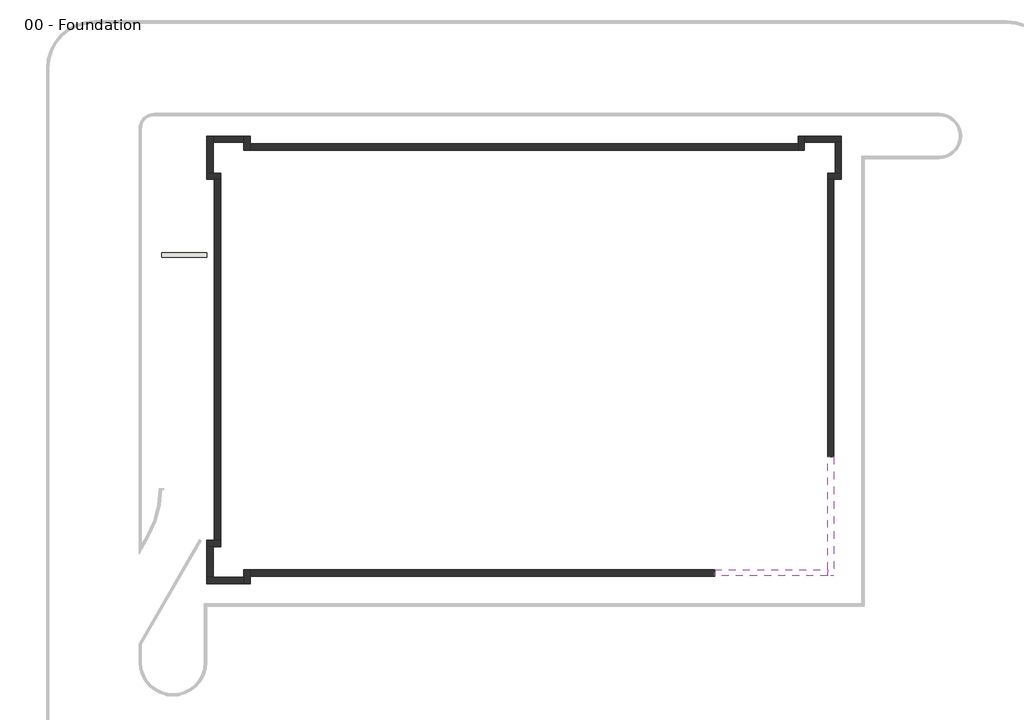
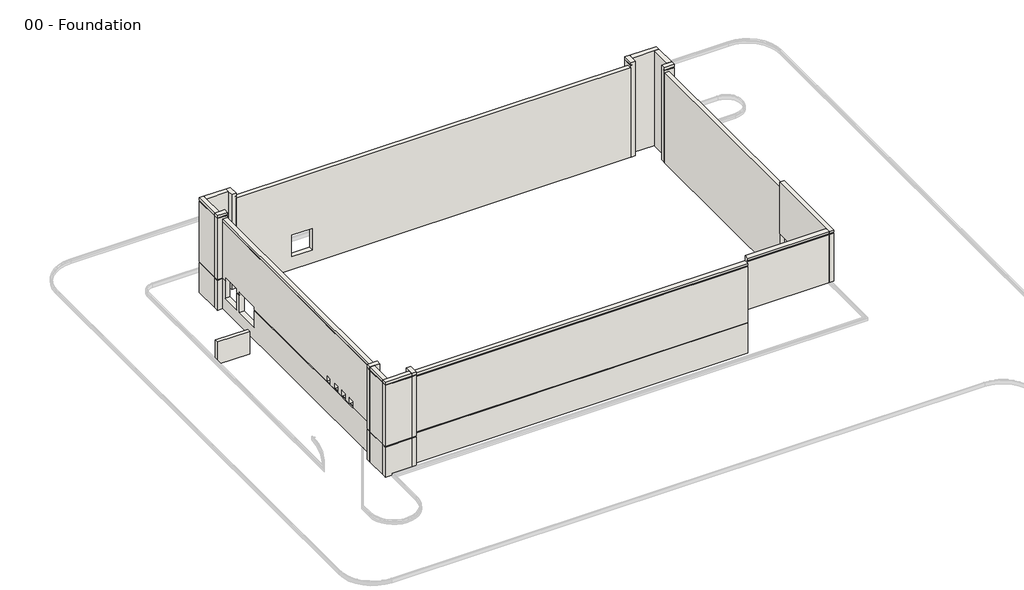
# One storey, part 1 of 2: 19 walls.
"""IFC4 building model written with IfcOpenShell, lengths in millimetres."""

from ifc_helpers import new_model, si_unit, frame, origin, place, context, project, spatial, polyline, outline, extrude, faceted_brep, element, save

model = new_model("IFC4")

# Units and contexts
model_context = context("Model", 3, world=origin())
ifc_project = project(units=[si_unit("LENGTHUNIT", "METRE", prefix="MILLI")], contexts=[model_context])

# Site, building, storey
site = spatial("IfcSite", under=ifc_project)
building = spatial("IfcBuilding", under=site)
storey = spatial("IfcBuildingStorey", under=building, Name="00 - Foundation", Elevation=-1250.0)

# Walls
placement = place(None, origin())
element("IfcWall", 1, ObjectType="Exterior - Render on Brick on Block @ Entry", at=placement, inside=storey, context=model_context, shape_type="Brep", body=[
    faceted_brep([(18351.5272279, -6481.9313057, 3000.0), (18351.5272279, -13977.9313057, 3000.0), (18351.5272279, -14406.9313057, 3000.0), (18351.5272279, -14406.9313057, 7700.0), (18351.5272279, -14331.9313057, 7700.0), (18351.5272279, -14331.9313057, 7775.0), (18351.5272279, -14406.9313057, 7775.0), (18351.5272279, -14406.9313057, 8000.0), (18351.5272279, -13977.9313057, 8000.0), (18351.5272279, -6481.9313057, 8000.0), (18351.5272279, -6481.9313057, 7500.0), (18780.5272279, -14406.9313057, 3000.0), (18780.5272279, -6481.9313057, 3000.0), (18780.5272279, -6481.9313057, 7200.0), (18780.5272279, -6481.9313057, 7275.0), (18780.5272279, -6481.9313057, 7500.0), (18780.5272279, -6481.9313057, 7700.0), (18780.5272279, -14406.9313057, 7700.0), (18780.5272279, -6481.9313057, 8000.0), (18780.5272279, -14406.9313057, 8000.0), (18780.5272279, -14406.9313057, 7775.0), (18780.5272279, -6481.9313057, 7775.0), (18705.5272279, -6481.9313057, 7775.0), (18705.5272279, -6481.9313057, 7700.0), (18705.5272279, -14331.9313057, 7775.0), (18705.5272279, -14331.9313057, 7700.0)], [[[0, 1, 2, 3, 4, 5, 6, 7, 8, 9, 10]], [[11, 12, 13, 14, 15, 16, 17]], [[18, 19, 20, 21]], [[2, 1, 0, 12, 11]], [[9, 8, 7, 19, 18]], [[0, 10, 9, 18, 21, 22, 23, 16, 15, 14, 13, 12]], [[24, 22, 21, 20, 6, 5]], [[23, 25, 4, 3, 17, 16]], [[22, 24, 25, 23]], [[2, 11, 17, 3]], [[19, 7, 6, 20]], [[25, 24, 5, 4]]]),
])
element("IfcWall", 2, ObjectType="Exterior - Render on Brick on Block @ Entry", at=placement, inside=storey, context=model_context, shape_type="Brep", body=[
    faceted_brep([(18351.5272279, -13977.9313057, 3000.0), (10855.5272279, -13977.9313057, 3000.0), (10855.5272279, -13977.9313057, 7500.0), (10855.5272279, -13977.9313057, 8000.0), (18351.5272279, -13977.9313057, 8000.0), (10855.5272279, -14406.9313057, 3000.0), (18351.5272279, -14406.9313057, 3000.0), (18351.5272279, -14406.9313057, 7700.0), (10855.5272279, -14406.9313057, 7700.0), (10855.5272279, -14406.9313057, 7500.0), (10855.5272279, -14406.9313057, 7275.0), (10855.5272279, -14406.9313057, 7200.0), (18351.5272279, -14406.9313057, 8000.0), (10855.5272279, -14406.9313057, 8000.0), (10855.5272279, -14406.9313057, 7775.0), (18351.5272279, -14406.9313057, 7775.0), (10855.5272279, -14331.9313057, 7700.0), (10855.5272279, -14331.9313057, 7775.0), (18351.5272279, -14331.9313057, 7700.0), (18351.5272279, -14331.9313057, 7775.0)], [[[0, 1, 2, 3, 4]], [[5, 6, 7, 8, 9, 10, 11]], [[12, 13, 14, 15]], [[1, 0, 6, 5]], [[3, 2, 1, 5, 11, 10, 9, 8, 16, 17, 14, 13]], [[4, 3, 13, 12]], [[16, 18, 19, 17]], [[0, 4, 12, 15, 19, 18, 7, 6]], [[17, 19, 15, 14]], [[18, 16, 8, 7]]]),
])
element("IfcWall", 3, ObjectType="Exterior - Render on Brick on Block", at=placement, inside=storey, context=model_context, shape_type="Brep", body=[
    faceted_brep([(10855.5272279, -13977.9313057, -1250.0), (-20031.4727721, -13977.9313057, -1250.0), (-20031.4727721, -13977.9313057, 7500.0), (10855.5272279, -13977.9313057, 7500.0), (10855.5272279, -13977.9313057, 3000.0), (10855.5272279, -14406.9313057, 7500.0), (-20031.4727721, -14406.9313057, 7500.0), (-20031.4727721, -14406.9313057, 7275.0), (10855.5272279, -14406.9313057, 7275.0), (-20031.4727721, -14406.9313057, -1250.0), (10855.5272279, -14406.9313057, -1250.0), (10855.5272279, -14406.9313057, 1675.0), (-20031.4727721, -14406.9313057, 1675.0), (-20031.4727721, -14406.9313057, 1750.0), (10855.5272279, -14406.9313057, 1750.0), (10855.5272279, -14406.9313057, 7200.0), (-20031.4727721, -14406.9313057, 7200.0), (10855.5272279, -14331.9313057, 7275.0), (10855.5272279, -14331.9313057, 7200.0), (10855.5272279, -14331.9313057, 1750.0), (10855.5272279, -14331.9313057, 1675.0), (10855.5272279, -14381.9313057, -1250.0), (-20031.4727721, -14381.9313057, -1250.0), (-20031.4727721, -14331.9313057, 1750.0), (-20031.4727721, -14331.9313057, 1675.0), (-20031.4727721, -14331.9313057, 7275.0), (-20031.4727721, -14331.9313057, 7200.0)], [[[0, 1, 2, 3, 4]], [[5, 6, 7, 8]], [[9, 10, 11, 12]], [[13, 14, 15, 16]], [[3, 2, 6, 5]], [[0, 4, 3, 5, 8, 17, 18, 15, 14, 19, 20, 11, 10, 21]], [[1, 0, 21, 22]], [[21, 10, 9, 22]], [[14, 13, 23, 19]], [[12, 11, 20, 24]], [[20, 19, 23, 24]], [[25, 17, 8, 7]], [[18, 26, 16, 15]], [[17, 25, 26, 18]], [[2, 1, 22, 9, 12, 24, 23, 13, 16, 26, 25, 7, 6]]]),
])
element("IfcWall", 4, ObjectType="Exterior - Render on Brick on Block", at=placement, inside=storey, context=model_context, shape_type="Brep", body=[
    faceted_brep([(-20460.4727721, -13977.9313057, -1250.0), (-20460.4727721, -14477.7313057, -1250.0), (-20460.4727721, -14906.7313057, -1250.0), (-20460.4727721, -14906.7313057, 1675.0), (-20460.4727721, -14831.7313057, 1675.0), (-20460.4727721, -14831.7313057, 1750.0), (-20460.4727721, -14906.7313057, 1750.0), (-20460.4727721, -14906.7313057, 7700.0), (-20460.4727721, -14831.7313057, 7700.0), (-20460.4727721, -14831.7313057, 7775.0), (-20460.4727721, -14906.7313057, 7775.0), (-20460.4727721, -14906.7313057, 8000.0), (-20460.4727721, -14477.7313057, 8000.0), (-20460.4727721, -13977.9313057, 8000.0), (-20031.4727721, -13977.9313057, 8000.0), (-20031.4727721, -14906.7313057, 8000.0), (-20031.4727721, -14906.7313057, 7775.0), (-20031.4727721, -13977.9313057, 7775.0), (-20031.4727721, -14906.7313057, -1250.0), (-20031.4727721, -14406.9313057, -1250.0), (-20031.4727721, -13977.9313057, -1250.0), (-20031.4727721, -13977.9313057, 7500.0), (-20031.4727721, -13977.9313057, 7700.0), (-20031.4727721, -14906.7313057, 7700.0), (-20031.4727721, -14906.7313057, 1750.0), (-20031.4727721, -14406.9313057, 1750.0), (-20031.4727721, -14331.9313057, 1750.0), (-20031.4727721, -14331.9313057, 1675.0), (-20031.4727721, -14406.9313057, 1675.0), (-20031.4727721, -14906.7313057, 1675.0), (-20056.4727721, -13977.9313057, -1250.0), (-20056.4727721, -14906.7313057, -1250.0), (-20106.4727721, -14331.9313057, 1675.0), (-20106.4727721, -14331.9313057, 1750.0), (-20106.4727721, -14831.7313057, 1750.0), (-20106.4727721, -14831.7313057, 1675.0), (-20106.4727721, -14831.7313057, 7775.0), (-20106.4727721, -13977.9313057, 7775.0), (-20106.4727721, -13977.9313057, 7700.0), (-20106.4727721, -14831.7313057, 7700.0)], [[[0, 1, 2, 3, 4, 5, 6, 7, 8, 9, 10, 11, 12, 13]], [[14, 15, 16, 17]], [[18, 19, 20, 21, 22, 23, 24, 25, 26, 27, 28, 29]], [[13, 12, 11, 15, 14]], [[2, 1, 0, 30, 31]], [[32, 33, 34, 35]], [[36, 37, 17, 16, 10, 9]], [[38, 39, 8, 7, 23, 22]], [[37, 36, 39, 38]], [[0, 13, 14, 17, 37, 38, 22, 21, 20, 30]], [[20, 19, 18, 31, 30]], [[34, 33, 26, 25, 24, 6, 5]], [[32, 35, 4, 3, 29, 28, 27]], [[33, 32, 27, 26]], [[15, 11, 10, 16]], [[2, 31, 18, 29, 3]], [[6, 24, 23, 7]], [[35, 34, 5, 4]], [[39, 36, 9, 8]]]),
])
element("IfcWall", 5, ObjectType="Exterior - Render on Brick on Block", at=placement, inside=storey, context=model_context, shape_type="Brep", body=[
    faceted_brep([(-20460.4727721, -14477.7313057, -1250.0), (-22490.4727721, -14477.7313057, -1250.0), (-22919.4727721, -14477.7313057, -1250.0), (-22919.4727721, -14477.7313057, 1675.0), (-22844.4727721, -14477.7313057, 1675.0), (-22844.4727721, -14477.7313057, 1750.0), (-22919.4727721, -14477.7313057, 1750.0), (-22919.4727721, -14477.7313057, 7700.0), (-22844.4727721, -14477.7313057, 7700.0), (-22844.4727721, -14477.7313057, 7775.0), (-22919.4727721, -14477.7313057, 7775.0), (-22919.4727721, -14477.7313057, 8000.0), (-22490.4727721, -14477.7313057, 8000.0), (-20460.4727721, -14477.7313057, 8000.0), (-20460.4727721, -14906.7313057, 8000.0), (-22919.4727721, -14906.7313057, 8000.0), (-22919.4727721, -14906.7313057, 7775.0), (-20460.4727721, -14906.7313057, 7775.0), (-22919.4727721, -14906.7313057, -1250.0), (-20460.4727721, -14906.7313057, -1250.0), (-20460.4727721, -14906.7313057, 1675.0), (-22919.4727721, -14906.7313057, 1675.0), (-22919.4727721, -14906.7313057, 1750.0), (-20460.4727721, -14906.7313057, 1750.0), (-20460.4727721, -14906.7313057, 7700.0), (-22919.4727721, -14906.7313057, 7700.0), (-20460.4727721, -14881.7313057, -1250.0), (-22919.4727721, -14881.7313057, -1250.0), (-22844.4727721, -14831.7313057, 1675.0), (-20460.4727721, -14831.7313057, 1675.0), (-20460.4727721, -14831.7313057, 1750.0), (-22844.4727721, -14831.7313057, 1750.0), (-22844.4727721, -14831.7313057, 7775.0), (-22844.4727721, -14831.7313057, 7700.0), (-20460.4727721, -14831.7313057, 7700.0), (-20460.4727721, -14831.7313057, 7775.0)], [[[0, 1, 2, 3, 4, 5, 6, 7, 8, 9, 10, 11, 12, 13]], [[14, 15, 16, 17]], [[18, 19, 20, 21]], [[22, 23, 24, 25]], [[13, 12, 11, 15, 14]], [[2, 1, 0, 26, 27]], [[28, 29, 30, 31]], [[32, 33, 34, 35]], [[0, 13, 14, 17, 35, 34, 24, 23, 30, 29, 20, 19, 26]], [[19, 18, 27, 26]], [[31, 30, 23, 22, 6, 5]], [[29, 28, 4, 3, 21, 20]], [[9, 32, 35, 17, 16, 10]], [[34, 33, 8, 7, 25, 24]], [[15, 11, 10, 16]], [[2, 27, 18, 21, 3]], [[6, 22, 25, 7]], [[28, 31, 5, 4]], [[33, 32, 9, 8]]]),
])
element("IfcWall", 6, ObjectType="Exterior - Render on Brick on Block", at=placement, inside=storey, context=model_context, shape_type="SweptSolid", body=[
    extrude(outline(polyline([(-1250.0, -22490.4727721), (8000.0, -22490.4727721), (8000.0, -22919.4727721), (7775.0, -22919.4727721), (7775.0, -22844.4727721), (7700.0, -22844.4727721), (7700.0, -22919.4727721), (1750.0, -22919.4727721), (1750.0, -22844.4727721), (1675.0, -22844.4727721), (1675.0, -22919.4727721), (-1250.0, -22919.4727721), (-1250.0, -22894.4727721), (-1250.0, -22490.4727721)])), frame((0.0, -14477.7313057, 0.0), z_axis=(0.0, 1.0, 0.0), x_axis=(0.0, 0.0, 1.0)), (0.0, 0.0, 1.0), 2030.0),
])
element("IfcWall", 7, ObjectType="Exterior - Render on Brick on Block", at=placement, inside=storey, context=model_context, shape_type="Brep", body=[
    faceted_brep([(-22919.4727721, -12447.7313057, -1250.0), (-22490.4727721, -12447.7313057, -1250.0), (-21990.4727721, -12447.7313057, -1250.0), (-21990.4727721, -12447.7313057, 8000.0), (-22490.4727721, -12447.7313057, 8000.0), (-22919.4727721, -12447.7313057, 8000.0), (-22919.4727721, -12447.7313057, 7775.0), (-22844.4727721, -12447.7313057, 7775.0), (-22844.4727721, -12447.7313057, 7700.0), (-22919.4727721, -12447.7313057, 7700.0), (-22919.4727721, -12447.7313057, 1750.0), (-22844.4727721, -12447.7313057, 1750.0), (-22844.4727721, -12447.7313057, 1675.0), (-22919.4727721, -12447.7313057, 1675.0), (-22919.4727721, -12018.7313057, 8000.0), (-21990.4727721, -12018.7313057, 8000.0), (-21990.4727721, -12018.7313057, 7775.0), (-22919.4727721, -12018.7313057, 7775.0), (-21990.4727721, -12018.7313057, -1250.0), (-22419.4727721, -12018.7313057, -1250.0), (-22919.4727721, -12018.7313057, -1250.0), (-22919.4727721, -12018.7313057, 1675.0), (-22419.4727721, -12018.7313057, 1675.0), (-22344.4727721, -12018.7313057, 1675.0), (-22344.4727721, -12018.7313057, 1750.0), (-22419.4727721, -12018.7313057, 1750.0), (-22919.4727721, -12018.7313057, 1750.0), (-22919.4727721, -12018.7313057, 7700.0), (-21990.4727721, -12018.7313057, 7700.0), (-21990.4727721, -12018.7313057, 7500.0), (-22919.4727721, -12043.7313057, -1250.0), (-21990.4727721, -12043.7313057, -1250.0), (-22844.4727721, -12093.7313057, 1675.0), (-22844.4727721, -12093.7313057, 1750.0), (-22344.4727721, -12093.7313057, 1750.0), (-22344.4727721, -12093.7313057, 1675.0), (-22844.4727721, -12093.7313057, 7775.0), (-21990.4727721, -12093.7313057, 7775.0), (-21990.4727721, -12093.7313057, 7700.0), (-22844.4727721, -12093.7313057, 7700.0)], [[[0, 1, 2, 3, 4, 5, 6, 7, 8, 9, 10, 11, 12, 13]], [[14, 15, 16, 17]], [[18, 19, 20, 21, 22, 23, 24, 25, 26, 27, 28, 29]], [[5, 4, 3, 15, 14]], [[2, 1, 0, 30, 31]], [[32, 33, 34, 35]], [[36, 37, 38, 39]], [[5, 14, 17, 6]], [[30, 0, 13, 21, 20]], [[26, 10, 9, 27]], [[20, 19, 18, 31, 30]], [[34, 33, 11, 10, 26, 25, 24]], [[32, 35, 23, 22, 21, 13, 12]], [[33, 32, 12, 11]], [[37, 36, 7, 6, 17, 16]], [[39, 38, 28, 27, 9, 8]], [[36, 39, 8, 7]], [[3, 2, 31, 18, 29, 28, 38, 37, 16, 15]], [[35, 34, 24, 23]]]),
])
element("IfcWall", 8, ObjectType="Exterior - Render on Brick on Block", at=placement, inside=storey, context=model_context, shape_type="Brep", body=[
    faceted_brep([(-21990.4727721, -12018.7313057, -1250.0), (-21990.4727721, 11955.0686943, -1250.0), (-21990.4727721, 11955.0686943, 7500.0), (-21990.4727721, -12018.7313057, 7500.0), (-21990.4727721, 9255.0686943, 2000.0), (-21990.4727721, 9255.0686943, 0.0), (-21990.4727721, 6855.0686943, 0.0), (-21990.4727721, 6855.0686943, 2000.0), (-21990.4727721, 9655.0686943, 2100.0), (-21990.4727721, 11555.0686943, 2100.0), (-21990.4727721, 11555.0686943, 0.0), (-21990.4727721, 9655.0686943, 0.0), (-21990.4727721, -5291.1813057, 1750.0), (-21990.4727721, -5291.1813057, 2360.0), (-21990.4727721, -4681.1813057, 2360.0), (-21990.4727721, -4681.1813057, 1750.0), (-21990.4727721, -6501.1813057, 1750.0), (-21990.4727721, -6501.1813057, 2360.0), (-21990.4727721, -5891.1813057, 2360.0), (-21990.4727721, -5891.1813057, 1750.0), (-21990.4727721, -7711.1813057, 1750.0), (-21990.4727721, -7711.1813057, 2360.0), (-21990.4727721, -7101.1813057, 2360.0), (-21990.4727721, -7101.1813057, 1750.0), (-21990.4727721, -8921.1813057, 1750.0), (-21990.4727721, -8921.1813057, 2360.0), (-21990.4727721, -8311.1813057, 2360.0), (-21990.4727721, -8311.1813057, 1750.0), (-22419.4727721, -12018.7313057, 7500.0), (-22419.4727721, 11955.0686943, 7500.0), (-22419.4727721, 11955.0686943, 7275.0), (-22419.4727721, -12018.7313057, 7275.0), (-22419.4727721, 11955.0686943, -1250.0), (-22419.4727721, -12018.7313057, -1250.0), (-22419.4727721, -12018.7313057, 1675.0), (-22419.4727721, 6855.0686943, 1675.0), (-22419.4727721, 6855.0686943, 0.0), (-22419.4727721, 9255.0686943, 0.0), (-22419.4727721, 9255.0686943, 1675.0), (-22419.4727721, 9655.0686943, 1675.0), (-22419.4727721, 9655.0686943, 0.0), (-22419.4727721, 11555.0686943, 0.0), (-22419.4727721, 11555.0686943, 1675.0), (-22419.4727721, 11955.0686943, 1675.0), (-22419.4727721, 11955.0686943, 1750.0), (-22419.4727721, 11555.0686943, 1750.0), (-22419.4727721, 11555.0686943, 2100.0), (-22419.4727721, 9655.0686943, 2100.0), (-22419.4727721, 9655.0686943, 1750.0), (-22419.4727721, 9255.0686943, 1750.0), (-22419.4727721, 9255.0686943, 2000.0), (-22419.4727721, 6855.0686943, 2000.0), (-22419.4727721, 6855.0686943, 1750.0), (-22419.4727721, -4681.1813057, 1750.0), (-22419.4727721, -4681.1813057, 2360.0), (-22419.4727721, -5291.1813057, 2360.0), (-22419.4727721, -5291.1813057, 1750.0), (-22419.4727721, -5891.1813057, 1750.0), (-22419.4727721, -5891.1813057, 2360.0), (-22419.4727721, -6501.1813057, 2360.0), (-22419.4727721, -6501.1813057, 1750.0), (-22419.4727721, -7101.1813057, 1750.0), (-22419.4727721, -7101.1813057, 2360.0), (-22419.4727721, -7711.1813057, 2360.0), (-22419.4727721, -7711.1813057, 1750.0), (-22419.4727721, -8311.1813057, 1750.0), (-22419.4727721, -8311.1813057, 2360.0), (-22419.4727721, -8921.1813057, 2360.0), (-22419.4727721, -8921.1813057, 1750.0), (-22419.4727721, -12018.7313057, 1750.0), (-22419.4727721, -12018.7313057, 7200.0), (-22419.4727721, 11955.0686943, 7200.0), (-22394.4727721, -12018.7313057, -1250.0), (-22394.4727721, 11955.0686943, -1250.0), (-22344.4727721, 11955.0686943, 1750.0), (-22344.4727721, 11555.0686943, 1750.0), (-22344.4727721, 11555.0686943, 1675.0), (-22344.4727721, 11955.0686943, 1675.0), (-22344.4727721, 11955.0686943, 7275.0), (-22344.4727721, -12018.7313057, 7275.0), (-22344.4727721, -12018.7313057, 7200.0), (-22344.4727721, 11955.0686943, 7200.0), (-22344.4727721, -12018.7313057, 1750.0), (-22344.4727721, -12018.7313057, 1675.0), (-22344.4727721, -8921.1813057, 1750.0), (-22344.4727721, 6855.0686943, 1750.0), (-22344.4727721, -4681.1813057, 1750.0), (-22344.4727721, -5291.1813057, 1750.0), (-22344.4727721, -5891.1813057, 1750.0), (-22344.4727721, -6501.1813057, 1750.0), (-22344.4727721, -7101.1813057, 1750.0), (-22344.4727721, -7711.1813057, 1750.0), (-22344.4727721, -8311.1813057, 1750.0), (-22344.4727721, 6855.0686943, 1675.0), (-22344.4727721, 9255.0686943, 1750.0), (-22344.4727721, 9255.0686943, 1675.0), (-22344.4727721, 9655.0686943, 1750.0), (-22344.4727721, 9655.0686943, 1675.0)], [[[0, 1, 2, 3], [4, 5, 6, 7], [8, 9, 10, 11], [12, 13, 14, 15], [16, 17, 18, 19], [20, 21, 22, 23], [24, 25, 26, 27]], [[28, 29, 30, 31]], [[32, 33, 34, 35, 36, 37, 38, 39, 40, 41, 42, 43]], [[44, 45, 46, 47, 48, 49, 50, 51, 52, 53, 54, 55, 56, 57, 58, 59, 60, 61, 62, 63, 64, 65, 66, 67, 68, 69, 70, 71]], [[3, 2, 29, 28]], [[1, 0, 72, 73]], [[45, 44, 74, 75]], [[43, 42, 76, 77]], [[77, 76, 75, 74]], [[78, 79, 31, 30]], [[80, 81, 71, 70]], [[79, 78, 81, 80]], [[0, 3, 28, 31, 79, 80, 70, 69, 82, 83, 34, 33, 72]], [[33, 32, 73, 72]], [[69, 68, 84, 82]], [[52, 85, 86, 53]], [[57, 56, 87, 88]], [[61, 60, 89, 90]], [[65, 64, 91, 92]], [[35, 34, 83, 93]], [[2, 1, 73, 32, 43, 77, 74, 44, 71, 81, 78, 30, 29]], [[5, 4, 50, 49, 94, 95, 38, 37]], [[51, 50, 4, 7]], [[7, 6, 36, 35, 93, 85, 52, 51]], [[37, 36, 6, 5]], [[94, 96, 97, 95]], [[96, 94, 49, 48]], [[95, 97, 39, 38]], [[8, 47, 46, 9]], [[47, 8, 11, 40, 39, 97, 96, 48]], [[40, 11, 10, 41]], [[9, 46, 45, 75, 76, 42, 41, 10]], [[93, 83, 82, 84, 92, 91, 90, 89, 88, 87, 86, 85]], [[13, 12, 87, 56, 55]], [[14, 13, 55, 54]], [[15, 14, 54, 53, 86]], [[12, 15, 86, 87]], [[17, 16, 89, 60, 59]], [[18, 17, 59, 58]], [[19, 18, 58, 57, 88]], [[16, 19, 88, 89]], [[21, 20, 91, 64, 63]], [[22, 21, 63, 62]], [[23, 22, 62, 61, 90]], [[20, 23, 90, 91]], [[25, 24, 84, 68, 67]], [[26, 25, 67, 66]], [[27, 26, 66, 65, 92]], [[24, 27, 92, 84]]]),
])
element("IfcWall", 9, ObjectType="Exterior - Render on Brick on Block", at=placement, inside=storey, context=model_context, shape_type="Brep", body=[
    faceted_brep([(-21990.4727721, 12384.0686943, -1250.0), (-22490.4727721, 12384.0686943, -1250.0), (-22919.4727721, 12384.0686943, -1250.0), (-22919.4727721, 12384.0686943, 1675.0), (-22844.4727721, 12384.0686943, 1675.0), (-22844.4727721, 12384.0686943, 1750.0), (-22919.4727721, 12384.0686943, 1750.0), (-22919.4727721, 12384.0686943, 7700.0), (-22844.4727721, 12384.0686943, 7700.0), (-22844.4727721, 12384.0686943, 7775.0), (-22919.4727721, 12384.0686943, 7775.0), (-22919.4727721, 12384.0686943, 8000.0), (-22490.4727721, 12384.0686943, 8000.0), (-21990.4727721, 12384.0686943, 8000.0), (-21990.4727721, 11955.0686943, 8000.0), (-22919.4727721, 11955.0686943, 8000.0), (-22919.4727721, 11955.0686943, 7775.0), (-21990.4727721, 11955.0686943, 7775.0), (-22919.4727721, 11955.0686943, -1250.0), (-22419.4727721, 11955.0686943, -1250.0), (-21990.4727721, 11955.0686943, -1250.0), (-21990.4727721, 11955.0686943, 7500.0), (-21990.4727721, 11955.0686943, 7700.0), (-22919.4727721, 11955.0686943, 7700.0), (-22919.4727721, 11955.0686943, 1750.0), (-22419.4727721, 11955.0686943, 1750.0), (-22344.4727721, 11955.0686943, 1750.0), (-22344.4727721, 11955.0686943, 1675.0), (-22419.4727721, 11955.0686943, 1675.0), (-22919.4727721, 11955.0686943, 1675.0), (-21990.4727721, 11980.0686943, -1250.0), (-22919.4727721, 11980.0686943, -1250.0), (-22344.4727721, 12030.0686943, 1675.0), (-22344.4727721, 12030.0686943, 1750.0), (-22844.4727721, 12030.0686943, 1750.0), (-22844.4727721, 12030.0686943, 1675.0), (-22844.4727721, 12030.0686943, 7775.0), (-21990.4727721, 12030.0686943, 7775.0), (-21990.4727721, 12030.0686943, 7700.0), (-22844.4727721, 12030.0686943, 7700.0)], [[[0, 1, 2, 3, 4, 5, 6, 7, 8, 9, 10, 11, 12, 13]], [[14, 15, 16, 17]], [[18, 19, 20, 21, 22, 23, 24, 25, 26, 27, 28, 29]], [[13, 12, 11, 15, 14]], [[2, 1, 0, 30, 31]], [[32, 33, 34, 35]], [[36, 37, 17, 16, 10, 9]], [[38, 39, 8, 7, 23, 22]], [[37, 36, 39, 38]], [[0, 13, 14, 17, 37, 38, 22, 21, 20, 30]], [[20, 19, 18, 31, 30]], [[34, 33, 26, 25, 24, 6, 5]], [[32, 35, 4, 3, 29, 28, 27]], [[33, 32, 27, 26]], [[15, 11, 10, 16]], [[2, 31, 18, 29, 3]], [[6, 24, 23, 7]], [[35, 34, 5, 4]], [[39, 36, 9, 8]]]),
])
element("IfcWall", 10, ObjectType="Exterior - Render on Brick on Block", at=placement, inside=storey, context=model_context, shape_type="Brep", body=[
    faceted_brep([(-22490.4727721, 12384.0686943, -1250.0), (-22490.4727721, 14414.0686943, -1250.0), (-22490.4727721, 14843.0686943, -1250.0), (-22490.4727721, 14843.0686943, 1675.0), (-22490.4727721, 14768.0686943, 1675.0), (-22490.4727721, 14768.0686943, 1750.0), (-22490.4727721, 14843.0686943, 1750.0), (-22490.4727721, 14843.0686943, 7700.0), (-22490.4727721, 14768.0686943, 7700.0), (-22490.4727721, 14768.0686943, 7775.0), (-22490.4727721, 14843.0686943, 7775.0), (-22490.4727721, 14843.0686943, 8000.0), (-22490.4727721, 14414.0686943, 8000.0), (-22490.4727721, 12384.0686943, 8000.0), (-22919.4727721, 12384.0686943, 8000.0), (-22919.4727721, 14843.0686943, 8000.0), (-22919.4727721, 14843.0686943, 7775.0), (-22919.4727721, 12384.0686943, 7775.0), (-22919.4727721, 14843.0686943, -1250.0), (-22919.4727721, 12384.0686943, -1250.0), (-22919.4727721, 12384.0686943, 1675.0), (-22919.4727721, 14843.0686943, 1675.0), (-22919.4727721, 14843.0686943, 1750.0), (-22919.4727721, 12384.0686943, 1750.0), (-22919.4727721, 12384.0686943, 7700.0), (-22919.4727721, 14843.0686943, 7700.0), (-22894.4727721, 12384.0686943, -1250.0), (-22894.4727721, 14843.0686943, -1250.0), (-22844.4727721, 14768.0686943, 1675.0), (-22844.4727721, 12384.0686943, 1675.0), (-22844.4727721, 12384.0686943, 1750.0), (-22844.4727721, 14768.0686943, 1750.0), (-22844.4727721, 14768.0686943, 7775.0), (-22844.4727721, 14768.0686943, 7700.0), (-22844.4727721, 12384.0686943, 7700.0), (-22844.4727721, 12384.0686943, 7775.0)], [[[0, 1, 2, 3, 4, 5, 6, 7, 8, 9, 10, 11, 12, 13]], [[14, 15, 16, 17]], [[18, 19, 20, 21]], [[22, 23, 24, 25]], [[13, 12, 11, 15, 14]], [[2, 1, 0, 26, 27]], [[28, 29, 30, 31]], [[32, 33, 34, 35]], [[0, 13, 14, 17, 35, 34, 24, 23, 30, 29, 20, 19, 26]], [[19, 18, 27, 26]], [[31, 30, 23, 22, 6, 5]], [[29, 28, 4, 3, 21, 20]], [[9, 32, 35, 17, 16, 10]], [[34, 33, 8, 7, 25, 24]], [[15, 11, 10, 16]], [[2, 27, 18, 21, 3]], [[6, 22, 25, 7]], [[28, 31, 5, 4]], [[33, 32, 9, 8]]]),
])
element("IfcWall", 11, ObjectType="Exterior - Render on Brick on Block", at=placement, inside=storey, context=model_context, shape_type="SweptSolid", body=[
    extrude(outline(polyline([(14414.0686943, -1250.0), (14414.0686943, 8000.0), (14843.0686943, 8000.0), (14843.0686943, 7775.0), (14768.0686943, 7775.0), (14768.0686943, 7700.0), (14843.0686943, 7700.0), (14843.0686943, 1750.0), (14768.0686943, 1750.0), (14768.0686943, 1675.0), (14843.0686943, 1675.0), (14843.0686943, -1250.0), (14818.0686943, -1250.0), (14414.0686943, -1250.0)])), frame((-22490.4727721, 0.0, 0.0), z_axis=(1.0, 0.0, 0.0), x_axis=(0.0, 1.0, 0.0)), (0.0, 0.0, 1.0), 2030.0),
])
element("IfcWall", 12, ObjectType="Exterior - Render on Brick on Block", at=placement, inside=storey, context=model_context, shape_type="Brep", body=[
    faceted_brep([(-20460.4727721, 14843.0686943, -1250.0), (-20460.4727721, 14414.0686943, -1250.0), (-20460.4727721, 13914.0686943, -1250.0), (-20460.4727721, 13914.0686943, 8000.0), (-20460.4727721, 14414.0686943, 8000.0), (-20460.4727721, 14843.0686943, 8000.0), (-20460.4727721, 14843.0686943, 7775.0), (-20460.4727721, 14768.0686943, 7775.0), (-20460.4727721, 14768.0686943, 7700.0), (-20460.4727721, 14843.0686943, 7700.0), (-20460.4727721, 14843.0686943, 1750.0), (-20460.4727721, 14768.0686943, 1750.0), (-20460.4727721, 14768.0686943, 1675.0), (-20460.4727721, 14843.0686943, 1675.0), (-20031.4727721, 14843.0686943, 8000.0), (-20031.4727721, 13914.0686943, 8000.0), (-20031.4727721, 13914.0686943, 7775.0), (-20031.4727721, 14843.0686943, 7775.0), (-20031.4727721, 13914.0686943, -1250.0), (-20031.4727721, 14343.0686943, -1250.0), (-20031.4727721, 14843.0686943, -1250.0), (-20031.4727721, 14843.0686943, 1675.0), (-20031.4727721, 14343.0686943, 1675.0), (-20031.4727721, 14268.0686943, 1675.0), (-20031.4727721, 14268.0686943, 1750.0), (-20031.4727721, 14343.0686943, 1750.0), (-20031.4727721, 14843.0686943, 1750.0), (-20031.4727721, 14843.0686943, 7700.0), (-20031.4727721, 13914.0686943, 7700.0), (-20031.4727721, 13914.0686943, 7500.0), (-20056.4727721, 14843.0686943, -1250.0), (-20056.4727721, 13914.0686943, -1250.0), (-20106.4727721, 14768.0686943, 1675.0), (-20106.4727721, 14768.0686943, 1750.0), (-20106.4727721, 14268.0686943, 1750.0), (-20106.4727721, 14268.0686943, 1675.0), (-20106.4727721, 14768.0686943, 7775.0), (-20106.4727721, 13914.0686943, 7775.0), (-20106.4727721, 13914.0686943, 7700.0), (-20106.4727721, 14768.0686943, 7700.0)], [[[0, 1, 2, 3, 4, 5, 6, 7, 8, 9, 10, 11, 12, 13]], [[14, 15, 16, 17]], [[18, 19, 20, 21, 22, 23, 24, 25, 26, 27, 28, 29]], [[5, 4, 3, 15, 14]], [[2, 1, 0, 30, 31]], [[32, 33, 34, 35]], [[36, 37, 38, 39]], [[5, 14, 17, 6]], [[30, 0, 13, 21, 20]], [[26, 10, 9, 27]], [[20, 19, 18, 31, 30]], [[34, 33, 11, 10, 26, 25, 24]], [[32, 35, 23, 22, 21, 13, 12]], [[33, 32, 12, 11]], [[37, 36, 7, 6, 17, 16]], [[39, 38, 28, 27, 9, 8]], [[36, 39, 8, 7]], [[3, 2, 31, 18, 29, 28, 38, 37, 16, 15]], [[35, 34, 24, 23]]]),
])
element("IfcWall", 13, ObjectType="Exterior - Render on Brick on Block", at=placement, inside=storey, context=model_context, shape_type="Brep", body=[
    faceted_brep([(-20031.4727721, 13914.0686943, -1250.0), (16392.5272279, 13914.0686943, -1250.0), (16392.5272279, 13914.0686943, 7500.0), (-20031.4727721, 13914.0686943, 7500.0), (-14912.4227721, 13914.0686943, 0.0), (-14912.4227721, 13914.0686943, 2100.0), (-13012.4227721, 13914.0686943, 2100.0), (-13012.4227721, 13914.0686943, 0.0), (-20031.4727721, 14343.0686943, 7500.0), (16392.5272279, 14343.0686943, 7500.0), (16392.5272279, 14343.0686943, 7275.0), (-20031.4727721, 14343.0686943, 7275.0), (16392.5272279, 14343.0686943, -1250.0), (-20031.4727721, 14343.0686943, -1250.0), (-20031.4727721, 14343.0686943, 1675.0), (-14912.4227721, 14343.0686943, 1675.0), (-14912.4227721, 14343.0686943, 0.0), (-13012.4227721, 14343.0686943, 0.0), (-13012.4227721, 14343.0686943, 1675.0), (16392.5272279, 14343.0686943, 1675.0), (16392.5272279, 14343.0686943, 1750.0), (-13012.4227721, 14343.0686943, 1750.0), (-13012.4227721, 14343.0686943, 2100.0), (-14912.4227721, 14343.0686943, 2100.0), (-14912.4227721, 14343.0686943, 1750.0), (-20031.4727721, 14343.0686943, 1750.0), (-20031.4727721, 14343.0686943, 7200.0), (16392.5272279, 14343.0686943, 7200.0), (-20031.4727721, 14318.0686943, -1250.0), (16392.5272279, 14318.0686943, -1250.0), (16392.5272279, 14268.0686943, 1750.0), (-13012.4227721, 14268.0686943, 1750.0), (-13012.4227721, 14268.0686943, 1675.0), (16392.5272279, 14268.0686943, 1675.0), (16392.5272279, 14268.0686943, 7275.0), (-20031.4727721, 14268.0686943, 7275.0), (-20031.4727721, 14268.0686943, 7200.0), (16392.5272279, 14268.0686943, 7200.0), (-20031.4727721, 14268.0686943, 1750.0), (-20031.4727721, 14268.0686943, 1675.0), (-14912.4227721, 14268.0686943, 1750.0), (-14912.4227721, 14268.0686943, 1675.0)], [[[0, 1, 2, 3], [4, 5, 6, 7]], [[8, 9, 10, 11]], [[12, 13, 14, 15, 16, 17, 18, 19]], [[20, 21, 22, 23, 24, 25, 26, 27]], [[3, 2, 9, 8]], [[1, 0, 28, 29]], [[21, 20, 30, 31]], [[19, 18, 32, 33]], [[33, 32, 31, 30]], [[34, 35, 11, 10]], [[36, 37, 27, 26]], [[35, 34, 37, 36]], [[0, 3, 8, 11, 35, 36, 26, 25, 38, 39, 14, 13, 28]], [[13, 12, 29, 28]], [[25, 24, 40, 38]], [[15, 14, 39, 41]], [[2, 1, 29, 12, 19, 33, 30, 20, 27, 37, 34, 10, 9]], [[5, 4, 16, 15, 41, 40, 24, 23]], [[6, 5, 23, 22]], [[7, 6, 22, 21, 31, 32, 18, 17]], [[4, 7, 17, 16]], [[38, 40, 41, 39]]]),
])
element("IfcWall", 14, ObjectType="Exterior - Render on Brick on Block", at=placement, inside=storey, context=model_context, shape_type="Brep", body=[
    faceted_brep([(16821.5272279, 13914.0686943, -1250.0), (16821.5272279, 14414.0686943, -1250.0), (16821.5272279, 14843.0686943, -1250.0), (16821.5272279, 14843.0686943, 1675.0), (16821.5272279, 14768.0686943, 1675.0), (16821.5272279, 14768.0686943, 1750.0), (16821.5272279, 14843.0686943, 1750.0), (16821.5272279, 14843.0686943, 7700.0), (16821.5272279, 14768.0686943, 7700.0), (16821.5272279, 14768.0686943, 7775.0), (16821.5272279, 14843.0686943, 7775.0), (16821.5272279, 14843.0686943, 8000.0), (16821.5272279, 14414.0686943, 8000.0), (16821.5272279, 13914.0686943, 8000.0), (16392.5272279, 13914.0686943, 8000.0), (16392.5272279, 14843.0686943, 8000.0), (16392.5272279, 14843.0686943, 7775.0), (16392.5272279, 13914.0686943, 7775.0), (16392.5272279, 14843.0686943, -1250.0), (16392.5272279, 14343.0686943, -1250.0), (16392.5272279, 13914.0686943, -1250.0), (16392.5272279, 13914.0686943, 7500.0), (16392.5272279, 13914.0686943, 7700.0), (16392.5272279, 14843.0686943, 7700.0), (16392.5272279, 14843.0686943, 1750.0), (16392.5272279, 14343.0686943, 1750.0), (16392.5272279, 14268.0686943, 1750.0), (16392.5272279, 14268.0686943, 1675.0), (16392.5272279, 14343.0686943, 1675.0), (16392.5272279, 14843.0686943, 1675.0), (16417.5272279, 13914.0686943, -1250.0), (16417.5272279, 14843.0686943, -1250.0), (16467.5272279, 14268.0686943, 1675.0), (16467.5272279, 14268.0686943, 1750.0), (16467.5272279, 14768.0686943, 1750.0), (16467.5272279, 14768.0686943, 1675.0), (16467.5272279, 14768.0686943, 7775.0), (16467.5272279, 13914.0686943, 7775.0), (16467.5272279, 13914.0686943, 7700.0), (16467.5272279, 14768.0686943, 7700.0)], [[[0, 1, 2, 3, 4, 5, 6, 7, 8, 9, 10, 11, 12, 13]], [[14, 15, 16, 17]], [[18, 19, 20, 21, 22, 23, 24, 25, 26, 27, 28, 29]], [[13, 12, 11, 15, 14]], [[2, 1, 0, 30, 31]], [[32, 33, 34, 35]], [[36, 37, 17, 16, 10, 9]], [[38, 39, 8, 7, 23, 22]], [[37, 36, 39, 38]], [[0, 13, 14, 17, 37, 38, 22, 21, 20, 30]], [[20, 19, 18, 31, 30]], [[34, 33, 26, 25, 24, 6, 5]], [[32, 35, 4, 3, 29, 28, 27]], [[33, 32, 27, 26]], [[15, 11, 10, 16]], [[2, 31, 18, 29, 3]], [[6, 24, 23, 7]], [[35, 34, 5, 4]], [[39, 36, 9, 8]]]),
])
element("IfcWall", 15, ObjectType="Exterior - Render on Brick on Block", at=placement, inside=storey, context=model_context, shape_type="Brep", body=[
    faceted_brep([(16821.5272279, 14414.0686943, -1250.0), (18851.5272279, 14414.0686943, -1250.0), (19280.5272279, 14414.0686943, -1250.0), (19280.5272279, 14414.0686943, 1675.0), (19205.5272279, 14414.0686943, 1675.0), (19205.5272279, 14414.0686943, 1750.0), (19280.5272279, 14414.0686943, 1750.0), (19280.5272279, 14414.0686943, 7700.0), (19205.5272279, 14414.0686943, 7700.0), (19205.5272279, 14414.0686943, 7775.0), (19280.5272279, 14414.0686943, 7775.0), (19280.5272279, 14414.0686943, 8000.0), (18851.5272279, 14414.0686943, 8000.0), (16821.5272279, 14414.0686943, 8000.0), (16821.5272279, 14843.0686943, 8000.0), (19280.5272279, 14843.0686943, 8000.0), (19280.5272279, 14843.0686943, 7775.0), (16821.5272279, 14843.0686943, 7775.0), (19280.5272279, 14843.0686943, -1250.0), (16821.5272279, 14843.0686943, -1250.0), (16821.5272279, 14843.0686943, 1675.0), (19280.5272279, 14843.0686943, 1675.0), (19280.5272279, 14843.0686943, 1750.0), (16821.5272279, 14843.0686943, 1750.0), (16821.5272279, 14843.0686943, 7700.0), (19280.5272279, 14843.0686943, 7700.0), (16821.5272279, 14818.0686943, -1250.0), (19280.5272279, 14818.0686943, -1250.0), (19205.5272279, 14768.0686943, 1675.0), (16821.5272279, 14768.0686943, 1675.0), (16821.5272279, 14768.0686943, 1750.0), (19205.5272279, 14768.0686943, 1750.0), (19205.5272279, 14768.0686943, 7775.0), (19205.5272279, 14768.0686943, 7700.0), (16821.5272279, 14768.0686943, 7700.0), (16821.5272279, 14768.0686943, 7775.0)], [[[0, 1, 2, 3, 4, 5, 6, 7, 8, 9, 10, 11, 12, 13]], [[14, 15, 16, 17]], [[18, 19, 20, 21]], [[22, 23, 24, 25]], [[13, 12, 11, 15, 14]], [[2, 1, 0, 26, 27]], [[28, 29, 30, 31]], [[32, 33, 34, 35]], [[0, 13, 14, 17, 35, 34, 24, 23, 30, 29, 20, 19, 26]], [[19, 18, 27, 26]], [[31, 30, 23, 22, 6, 5]], [[29, 28, 4, 3, 21, 20]], [[9, 32, 35, 17, 16, 10]], [[34, 33, 8, 7, 25, 24]], [[15, 11, 10, 16]], [[2, 27, 18, 21, 3]], [[6, 22, 25, 7]], [[28, 31, 5, 4]], [[33, 32, 9, 8]]]),
])
element("IfcWall", 16, ObjectType="Exterior - Render on Brick on Block", at=placement, inside=storey, context=model_context, shape_type="SweptSolid", body=[
    extrude(outline(polyline([(8000.0, 18851.5272279), (-1250.0, 18851.5272279), (-1250.0, 19255.5272279), (-1250.0, 19280.5272279), (1675.0, 19280.5272279), (1675.0, 19205.5272279), (1750.0, 19205.5272279), (1750.0, 19280.5272279), (7700.0, 19280.5272279), (7700.0, 19205.5272279), (7775.0, 19205.5272279), (7775.0, 19280.5272279), (8000.0, 19280.5272279), (8000.0, 18851.5272279)])), frame((0.0, 12384.0686943, 0.0), z_axis=(0.0, 1.0, 0.0), x_axis=(0.0, 0.0, 1.0)), (0.0, 0.0, 1.0), 2030.0),
])
element("IfcWall", 17, ObjectType="Exterior - Render on Brick on Block", at=placement, inside=storey, context=model_context, shape_type="Brep", body=[
    faceted_brep([(19280.5272279, 12384.0686943, -1250.0), (18851.5272279, 12384.0686943, -1250.0), (18351.5272279, 12384.0686943, -1250.0), (18351.5272279, 12384.0686943, 8000.0), (18851.5272279, 12384.0686943, 8000.0), (19280.5272279, 12384.0686943, 8000.0), (19280.5272279, 12384.0686943, 7775.0), (19205.5272279, 12384.0686943, 7775.0), (19205.5272279, 12384.0686943, 7700.0), (19280.5272279, 12384.0686943, 7700.0), (19280.5272279, 12384.0686943, 1750.0), (19205.5272279, 12384.0686943, 1750.0), (19205.5272279, 12384.0686943, 1675.0), (19280.5272279, 12384.0686943, 1675.0), (19280.5272279, 11955.0686943, 8000.0), (18351.5272279, 11955.0686943, 8000.0), (18351.5272279, 11955.0686943, 7775.0), (19280.5272279, 11955.0686943, 7775.0), (18351.5272279, 11955.0686943, -1250.0), (18780.5272279, 11955.0686943, -1250.0), (19280.5272279, 11955.0686943, -1250.0), (19280.5272279, 11955.0686943, 1675.0), (18780.5272279, 11955.0686943, 1675.0), (18705.5272279, 11955.0686943, 1675.0), (18705.5272279, 11955.0686943, 1750.0), (18780.5272279, 11955.0686943, 1750.0), (19280.5272279, 11955.0686943, 1750.0), (19280.5272279, 11955.0686943, 7700.0), (18351.5272279, 11955.0686943, 7700.0), (18351.5272279, 11955.0686943, 7500.0), (19280.5272279, 11980.0686943, -1250.0), (18351.5272279, 11980.0686943, -1250.0), (19205.5272279, 12030.0686943, 1675.0), (19205.5272279, 12030.0686943, 1750.0), (18705.5272279, 12030.0686943, 1750.0), (18705.5272279, 12030.0686943, 1675.0), (19205.5272279, 12030.0686943, 7775.0), (18351.5272279, 12030.0686943, 7775.0), (18351.5272279, 12030.0686943, 7700.0), (19205.5272279, 12030.0686943, 7700.0)], [[[0, 1, 2, 3, 4, 5, 6, 7, 8, 9, 10, 11, 12, 13]], [[14, 15, 16, 17]], [[18, 19, 20, 21, 22, 23, 24, 25, 26, 27, 28, 29]], [[5, 4, 3, 15, 14]], [[2, 1, 0, 30, 31]], [[32, 33, 34, 35]], [[36, 37, 38, 39]], [[5, 14, 17, 6]], [[30, 0, 13, 21, 20]], [[26, 10, 9, 27]], [[20, 19, 18, 31, 30]], [[34, 33, 11, 10, 26, 25, 24]], [[32, 35, 23, 22, 21, 13, 12]], [[33, 32, 12, 11]], [[37, 36, 7, 6, 17, 16]], [[39, 38, 28, 27, 9, 8]], [[36, 39, 8, 7]], [[3, 2, 31, 18, 29, 28, 38, 37, 16, 15]], [[35, 34, 24, 23]]]),
])
element("IfcWall", 18, ObjectType="Exterior - Render on Brick on Block", at=placement, inside=storey, context=model_context, shape_type="Brep", body=[
    faceted_brep([(18351.5272279, 11955.0686943, -1250.0), (18351.5272279, -6481.9313057, -1250.0), (18351.5272279, -6481.9313057, 3000.0), (18351.5272279, -6481.9313057, 7500.0), (18351.5272279, 11955.0686943, 7500.0), (18780.5272279, 11955.0686943, 7500.0), (18780.5272279, -6481.9313057, 7500.0), (18780.5272279, -6481.9313057, 7275.0), (18780.5272279, 11955.0686943, 7275.0), (18780.5272279, -6481.9313057, -1250.0), (18780.5272279, 11955.0686943, -1250.0), (18780.5272279, 11955.0686943, 1675.0), (18780.5272279, -6481.9313057, 1675.0), (18780.5272279, -6481.9313057, 1750.0), (18780.5272279, 11955.0686943, 1750.0), (18780.5272279, 11955.0686943, 7200.0), (18780.5272279, -6481.9313057, 7200.0), (18755.5272279, -6481.9313057, -1250.0), (18705.5272279, -6481.9313057, 1675.0), (18705.5272279, -6481.9313057, 1750.0), (18705.5272279, -6481.9313057, 7200.0), (18705.5272279, -6481.9313057, 7275.0), (18755.5272279, 11955.0686943, -1250.0), (18705.5272279, 11955.0686943, 1675.0), (18705.5272279, 11955.0686943, 1750.0), (18705.5272279, 11955.0686943, 7275.0), (18705.5272279, 11955.0686943, 7200.0)], [[[0, 1, 2, 3, 4]], [[5, 6, 7, 8]], [[9, 10, 11, 12]], [[13, 14, 15, 16]], [[3, 2, 1, 17, 9, 12, 18, 19, 13, 16, 20, 21, 7, 6]], [[4, 3, 6, 5]], [[1, 0, 22, 17]], [[19, 18, 23, 24]], [[21, 25, 8, 7]], [[26, 20, 16, 15]], [[25, 21, 20, 26]], [[0, 4, 5, 8, 25, 26, 15, 14, 24, 23, 11, 10, 22]], [[10, 9, 17, 22]], [[19, 24, 14, 13]], [[23, 18, 12, 11]]]),
])
element("IfcWall", 19, ObjectType="Foundation - 300mm Concrete", at=placement, inside=storey, context=model_context, shape_type="SweptSolid", body=[
    extrude(outline(polyline([(-25919.4727721, 7072.0686943), (-22919.4727721, 7072.0686943), (-22919.4727721, 6772.0686943), (-25919.4727721, 6772.0686943), (-25919.4727721, 7072.0686943)])), frame((0.0, 0.0, -2350.0), z_axis=(0.0, 0.0, 1.0), x_axis=(1.0, 0.0, 0.0)), (0.0, 0.0, 1.0), 2200.0),
])

save(model, "model.ifc")
